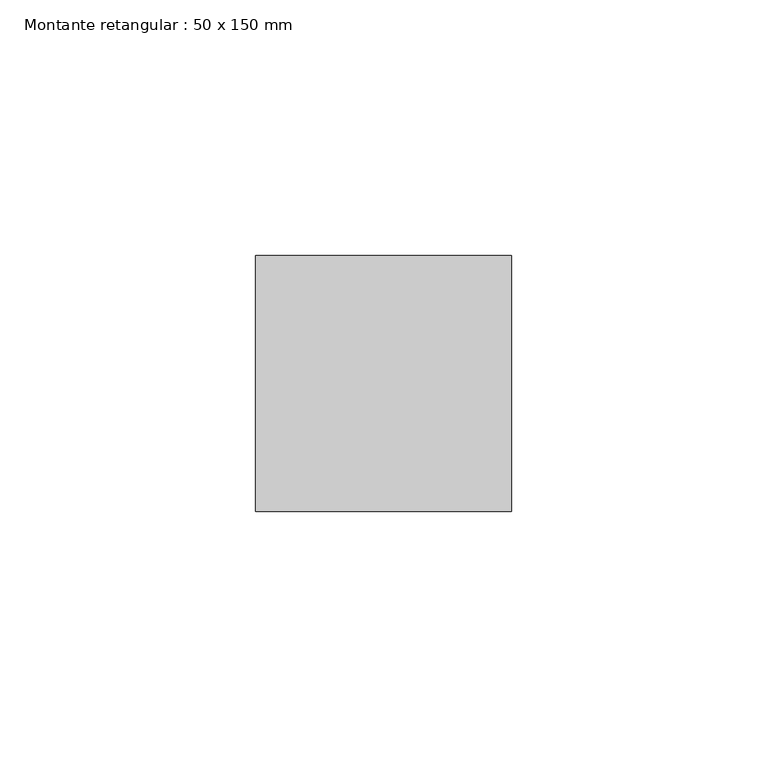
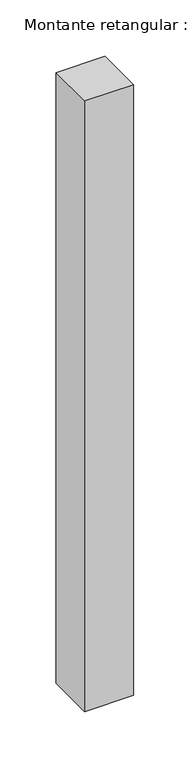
"""IFC4 building model written with IfcOpenShell, lengths in millimetres: member geometry, Montante retangular : 50 x 150 mm."""

import ifcopenshell
import ifcopenshell.guid

model = None  # the IFC model being written
_history = None  # IfcOwnerHistory: only IFC2X3 demands one
_inside = {}  # id of a spatial element -> (the spatial element, [elements in it])
_under = {}  # id of a project, library or spatial element -> (it, [spatial elements below it])
_declared = {}  # id of a project -> (the project, [libraries it declares])
_typed = {}  # id of a type object -> (the type object, [elements of that type])
_made_of = {}  # id of a material, layer set ... -> (it, [elements and type objects made of it])


def new_model(schema):
    """Start an empty IFC model of exactly this schema.

    Asked for "IFC4X3", IfcOpenShell would pick the latest addendum, in which some entities
    have other attributes; the version numbers below select the first issue.
    IFC2X3 requires an IfcOwnerHistory on every rooted entity: one is made here for all.
    """
    global model, _history
    if schema == "IFC4X3":
        model = ifcopenshell.file(schema_version=(4, 3, 0, 0))
    else:
        model = ifcopenshell.file(schema=schema)
    _inside.clear()
    _under.clear()
    _declared.clear()
    _typed.clear()
    _made_of.clear()
    _history = None
    if model.schema == "IFC2X3":
        org = make("IfcOrganization", Name="unknown")
        user = make(
            "IfcPersonAndOrganization",
            ThePerson=make("IfcPerson", FamilyName="unknown"),
            TheOrganization=org,
        )
        app = make(
            "IfcApplication",
            ApplicationDeveloper=org,
            Version="unknown",
            ApplicationFullName="unknown",
            ApplicationIdentifier="unknown",
        )
        _history = make(
            "IfcOwnerHistory",
            OwningUser=user,
            OwningApplication=app,
            ChangeAction="ADDED",
            CreationDate=0,
        )
    return model


def make(cls, **values):
    """One entity of the class cls with the attributes given. An attribute that is None is left unset."""
    return model.create_entity(
        cls, **{name: value for name, value in values.items() if value is not None}
    )


def rooted(cls, **values):
    """An entity with a GlobalId (a new one), such as an element, a storey or a relation."""
    return make(cls, GlobalId=ifcopenshell.guid.new(), OwnerHistory=_history, **values)


def si_unit(unit_type, name, prefix=None):
    """IfcSIUnit, for example si_unit("LENGTHUNIT", "METRE", prefix="MILLI")."""
    return make("IfcSIUnit", UnitType=unit_type, Prefix=prefix, Name=name)


def assignment(units):
    """IfcUnitAssignment: the units of a project."""
    return None if units is None else make("IfcUnitAssignment", Units=units)


def point(xyz):
    """IfcCartesianPoint."""
    return None if xyz is None else make("IfcCartesianPoint", Coordinates=xyz)


def direction(xyz):
    """IfcDirection."""
    return None if xyz is None else make("IfcDirection", DirectionRatios=xyz)


def frame(location, z_axis=None, x_axis=None):
    """IfcAxis2Placement3D, a coordinate frame: its origin and axes. An axis left out is left unset."""
    return make(
        "IfcAxis2Placement3D",
        Location=point(location),
        Axis=direction(z_axis),
        RefDirection=direction(x_axis),
    )


def origin():
    """The frame at (0, 0, 0) with its axes left unset."""
    return frame((0.0, 0.0, 0.0))


def place(relative_to, where):
    """IfcLocalPlacement: puts the frame where relative to a parent placement (None: the world)."""
    return make(
        "IfcLocalPlacement", PlacementRelTo=relative_to, RelativePlacement=where
    )


def context(
    kind, dimensions, precision=None, world=None, true_north=None, identifier=None
):
    """IfcGeometricRepresentationContext, for example the 3D "Model" context."""
    return make(
        "IfcGeometricRepresentationContext",
        ContextIdentifier=identifier,
        ContextType=kind,
        CoordinateSpaceDimension=dimensions,
        Precision=precision,
        WorldCoordinateSystem=world,
        TrueNorth=true_north,
    )


def project(units=None, contexts=None):
    """IfcProject with its units and contexts."""
    return rooted(
        "IfcProject",
        Name="project",
        RepresentationContexts=contexts,
        UnitsInContext=assignment(units),
    )


def spatial(cls, under=None, at=None, **own):
    """A site, building, storey or space (cls), placed at a placement, below another one or the project."""
    s = rooted(cls, ObjectPlacement=at, **own)
    if under is not None:
        _under.setdefault(under.id(), (under, []))[1].append(s)
    return s


def polyline(points):
    """IfcPolyline through the points."""
    return make("IfcPolyline", Points=[point(p) for p in points])


def outline(outer, holes=None, kind="AREA"):
    """IfcArbitraryClosedProfileDef: a profile drawn as a closed curve; with holes, ...WithVoids."""
    if holes is None:
        return make("IfcArbitraryClosedProfileDef", ProfileType=kind, OuterCurve=outer)
    return make(
        "IfcArbitraryProfileDefWithVoids",
        ProfileType=kind,
        OuterCurve=outer,
        InnerCurves=holes,
    )


def extrude(swept, where, along, depth):
    """IfcExtrudedAreaSolid: the profile swept, set in the frame where, extruded along a direction by depth."""
    return make(
        "IfcExtrudedAreaSolid",
        SweptArea=swept,
        Position=where,
        ExtrudedDirection=direction(along),
        Depth=depth,
    )


def shape(context_of_items, identifier, shape_type, items):
    """IfcShapeRepresentation: the items that make up one representation, for example the "Body"."""
    return make(
        "IfcShapeRepresentation",
        ContextOfItems=context_of_items,
        RepresentationIdentifier=identifier,
        RepresentationType=shape_type,
        Items=items,
    )


def source(mapping_origin, context_of_items, identifier, shape_type, items):
    """IfcRepresentationMap: a shape defined once, which mapped items show again and again."""
    return make(
        "IfcRepresentationMap",
        MappingOrigin=mapping_origin,
        MappedRepresentation=shape(context_of_items, identifier, shape_type, items),
    )


def transform(
    local_origin,
    x_axis=None,
    y_axis=None,
    z_axis=None,
    scale=None,
    scale2=None,
    scale3=None,
    uniform=True,
):
    """IfcCartesianTransformationOperator3D, or its non-uniform kind. x_axis, y_axis, z_axis: its Axis1, 2, 3."""
    if uniform:
        return make(
            "IfcCartesianTransformationOperator3D",
            Axis1=direction(x_axis),
            Axis2=direction(y_axis),
            LocalOrigin=point(local_origin),
            Scale=scale,
            Axis3=direction(z_axis),
        )
    return make(
        "IfcCartesianTransformationOperator3DnonUniform",
        Axis1=direction(x_axis),
        Axis2=direction(y_axis),
        LocalOrigin=point(local_origin),
        Scale=scale,
        Axis3=direction(z_axis),
        Scale2=scale2,
        Scale3=scale3,
    )


def mapped(mapping_source, mapping_target):
    """IfcMappedItem: shows the shape of a source again, moved by a transform."""
    return make(
        "IfcMappedItem", MappingSource=mapping_source, MappingTarget=mapping_target
    )


def made_of(thing, what):
    """Note that an element or type object is made of a material, layer set ...; save() writes the relation."""
    if what is not None:
        _made_of.setdefault(what.id(), (what, []))[1].append(thing)
    return thing


def element(
    cls,
    number,
    at=None,
    inside=None,
    cuts=None,
    type_object=None,
    material=None,
    context=None,
    identifier="Body",
    shape_type=None,
    held_by="IfcProductDefinitionShape",
    body=None,
    shapes=None,
    **own,
):
    """One element of the class cls, such as IfcWall. Its Tag is "e" and its number.

    at: its placement. inside: the storey or other place that contains it. cuts: it is an
    opening in that element (IfcRelVoidsElement). A single representation is given by context,
    identifier, shape_type and body (its items); several are given by shapes. held_by: the class
    of the entity that holds the representations. save() writes the other relations.
    """
    e = rooted(cls, Tag="e%d" % number, ObjectPlacement=at, **own)
    if body is not None:
        shapes = [shape(context, identifier, shape_type, body)]
    if shapes is not None:
        e.Representation = make(held_by, Representations=shapes)
    if inside is not None:
        _inside.setdefault(inside.id(), (inside, []))[1].append(e)
    if cuts is not None:
        rooted(
            "IfcRelVoidsElement", RelatingBuildingElement=cuts, RelatedOpeningElement=e
        )
    if type_object is not None:
        _typed.setdefault(type_object.id(), (type_object, []))[1].append(e)
    return made_of(e, material)


def aggregate(whole, parts):
    """IfcRelAggregates: a whole, such as a stair, and the parts it consists of."""
    return rooted("IfcRelAggregates", RelatingObject=whole, RelatedObjects=parts)


def save(model, path):
    """Write the relations noted so far, then the file.

    IfcRelAggregates (storeys below a building ...), IfcRelContainedInSpatialStructure (elements
    in a storey), IfcRelDefinesByType, IfcRelAssociatesMaterial and IfcRelDeclares: one each for
    every whole, place, type object, material and project.
    """
    for whole, parts in _under.values():
        aggregate(whole, parts)
    for where, things in _inside.values():
        rooted(
            "IfcRelContainedInSpatialStructure",
            RelatedElements=things,
            RelatingStructure=where,
        )
    for kind, things in _typed.values():
        rooted("IfcRelDefinesByType", RelatedObjects=things, RelatingType=kind)
    for what, things in _made_of.values():
        rooted("IfcRelAssociatesMaterial", RelatedObjects=things, RelatingMaterial=what)
    for by, libraries in _declared.values():
        rooted("IfcRelDeclares", RelatingContext=by, RelatedDefinitions=libraries)
    model.write(path)


def montante_retangular_50_x_150_mm_1c57f994(model_context):
    return source(origin(), model_context, "Body", "SweptSolid", [
        extrude(outline(polyline([(0.0, 25.0), (0.0, -25.0), (-50.0, -25.0), (-50.0, 25.0), (0.0, 25.0)])), frame((0.0, 0.0, -660.0), z_axis=(0.0, 0.0, 1.0), x_axis=(1.0, 0.0, 0.0)), (0.0, 0.0, 1.0), 660.0),
    ])


if __name__ == "__main__":
    model = new_model("IFC4")
    model_context = context("Model", 3, world=origin())
    ifc_project = project(units=[si_unit("LENGTHUNIT", "METRE", prefix="MILLI")], contexts=[model_context])
    site = spatial("IfcSite", under=ifc_project)
    building = spatial("IfcBuilding", under=site)
    placement = place(None, origin())
    montante_retangular_50_x_150_mm_shape = montante_retangular_50_x_150_mm_1c57f994(model_context)
    element("IfcMember", 1, ObjectType="Montante retangular : 50 x 150 mm", at=placement, inside=building, context=model_context, shape_type="MappedRepresentation", body=[
        mapped(montante_retangular_50_x_150_mm_shape, transform((0.0, 0.0, 0.0), x_axis=(1.0, 0.0, 0.0), y_axis=(0.0, 1.0, 0.0), z_axis=(0.0, 0.0, 1.0))),
    ])
    save(model, "model.ifc")
